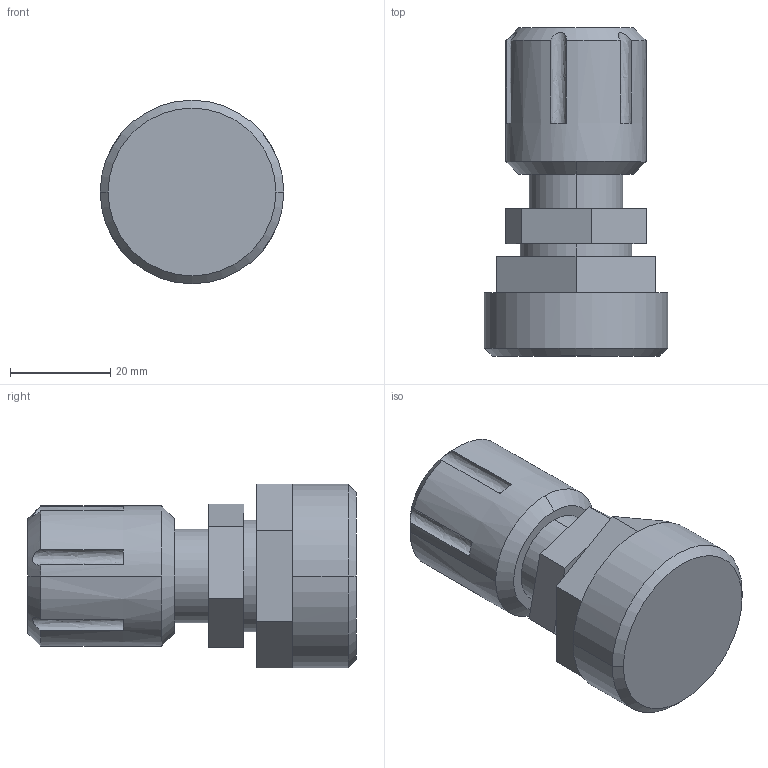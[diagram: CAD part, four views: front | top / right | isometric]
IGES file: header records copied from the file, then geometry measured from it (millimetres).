
Start section: SolidWorks IGES file using analytic representation for surfaces
Global section: file name: S:\Product Visuals\REVISED-30L-TOP-MOUNT-FITTINGS\IGS\top-straight-outlet-only\flaretek\08-flaretek-with-top-mount-adapter.IGS; native system: SolidWorks 2012; preprocessor: SolidWorks 2012; author: rachel.dressel; date: 121127.151116; units: inch
Bounding box: 36.6 x 65.45 x 36.66 mm (x, y, z)
Volume: 42275.1 mm3; surface area: 9191.9 mm2
Topology: 1 solids, 1 shells, 62 faces, 149 edges, 94 vertices
Faces by surface type: plane 37, revolution 25
